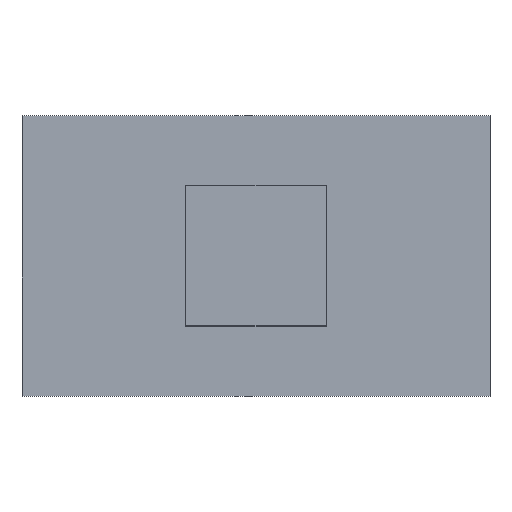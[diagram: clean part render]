
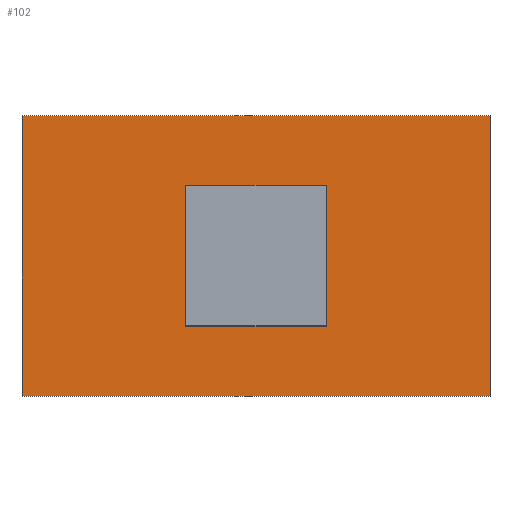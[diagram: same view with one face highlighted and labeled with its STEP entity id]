
A CAD part, top view. The second image highlights one B-rep face of the part: STEP entity #102.
In plain terms, the highlighted planar face has unit normal (0, 0, 1).
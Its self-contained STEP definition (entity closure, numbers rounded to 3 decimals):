
#31=CARTESIAN_POINT('',(0.0,0.0,6.0));
#32=VERTEX_POINT('',#31);
#33=CARTESIAN_POINT('',(40.0,0.0,6.0));
#34=VERTEX_POINT('',#33);
#35=CARTESIAN_POINT('',(40.0,24.0,6.0));
#36=VERTEX_POINT('',#35);
#37=CARTESIAN_POINT('',(0.0,24.0,6.0));
#38=VERTEX_POINT('',#37);
#71=CARTESIAN_POINT('',(0.0,0.0,6.0));
#72=DIRECTION('',(1.0,0.0,0.0));
#73=VECTOR('',#72,40.0);
#74=LINE('',#71,#73);
#75=EDGE_CURVE('',#32,#34,#74,.T.);
#76=ORIENTED_EDGE('',*,*,#75,.T.);
#77=CARTESIAN_POINT('',(40.0,0.0,6.0));
#78=DIRECTION('',(0.0,1.0,0.0));
#79=VECTOR('',#78,24.0);
#80=LINE('',#77,#79);
#81=EDGE_CURVE('',#34,#36,#80,.T.);
#82=ORIENTED_EDGE('',*,*,#81,.T.);
#83=CARTESIAN_POINT('',(40.0,24.0,6.0));
#84=DIRECTION('',(-1.0,0.0,0.0));
#85=VECTOR('',#84,40.0);
#86=LINE('',#83,#85);
#87=EDGE_CURVE('',#36,#38,#86,.T.);
#88=ORIENTED_EDGE('',*,*,#87,.T.);
#89=CARTESIAN_POINT('',(0.0,24.0,6.0));
#90=DIRECTION('',(0.0,-1.0,0.0));
#91=VECTOR('',#90,24.0);
#92=LINE('',#89,#91);
#93=EDGE_CURVE('',#38,#32,#92,.T.);
#94=ORIENTED_EDGE('',*,*,#93,.T.);
#95=EDGE_LOOP('',(#76,#82,#88,#94));
#96=FACE_OUTER_BOUND('',#95,.T.);
#97=CARTESIAN_POINT('',(0.0,0.0,6.0));
#98=DIRECTION('',(0.0,0.0,1.0));
#99=DIRECTION('',(1.0,0.0,0.0));
#100=AXIS2_PLACEMENT_3D('',#97,#98,#99);
#101=PLANE('',#100);
#102=ADVANCED_FACE('',(#96),#101,.T.);
